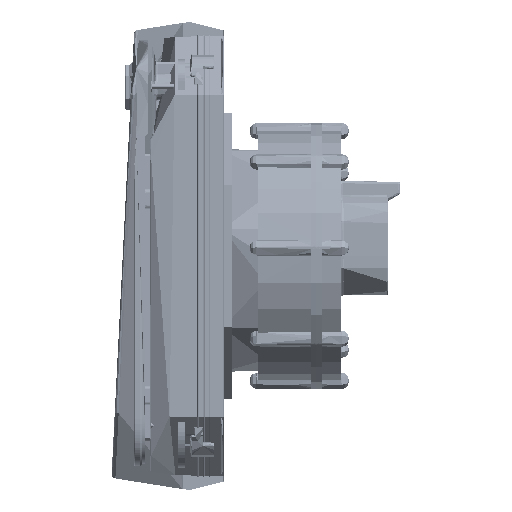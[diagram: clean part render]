
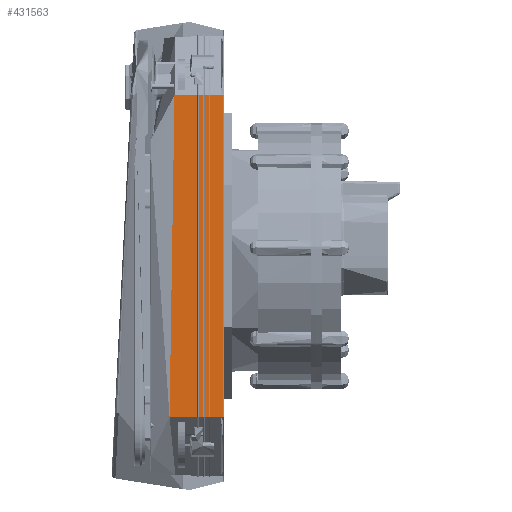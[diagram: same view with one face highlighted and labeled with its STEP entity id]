
A CAD part, left-side view. The second image highlights one B-rep face of the part: STEP entity #431563.
In plain terms, the highlighted planar face has unit normal (1, -0.009, 0).
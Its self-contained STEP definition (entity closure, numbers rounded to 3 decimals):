
#7128 = CARTESIAN_POINT ( 'NONE',  ( -45.708, -8.784, 18.975 ) ) ;
#21812 = CARTESIAN_POINT ( 'NONE',  ( -45.702, -8.04, -28.94 ) ) ;
#63212 = VECTOR ( 'NONE', #393427, 1000. ) ;
#67327 = VECTOR ( 'NONE', #553884, 1000. ) ;
#81772 = CARTESIAN_POINT ( 'NONE',  ( -45.711, -9.059, 37.013 ) ) ;
#85289 = ORIENTED_EDGE ( 'NONE', *, *, #650619, .F. ) ;
#96446 = CARTESIAN_POINT ( 'NONE',  ( -45.706, -8.503, 0.936 ) ) ;
#97636 = CARTESIAN_POINT ( 'NONE',  ( -45.807, -20.062, -29.128 ) ) ;
#107795 = PLANE ( 'NONE',  #699054 ) ;
#135760 = VERTEX_POINT ( 'NONE', #210786 ) ;
#138946 = DIRECTION ( 'NONE',  ( -0.009, -1., 0. ) ) ;
#166340 = CARTESIAN_POINT ( 'NONE',  ( -45.704, -8.362, -8.083 ) ) ;
#178512 = LINE ( 'NONE', #497392, #739581 ) ;
#208797 = CARTESIAN_POINT ( 'NONE',  ( -45.808, -20.26, 43.026 ) ) ;
#209208 = CARTESIAN_POINT ( 'NONE',  ( -45.807, -20.062, -29.128 ) ) ;
#210786 = CARTESIAN_POINT ( 'NONE',  ( -45.786, -17.71, -29.128 ) ) ;
#220555 = CARTESIAN_POINT ( 'NONE',  ( -45.786, -17.71, -29.128 ) ) ;
#231271 = CARTESIAN_POINT ( 'NONE',  ( -45.711, -9.151, 43.026 ) ) ;
#235440 = B_SPLINE_CURVE_WITH_KNOTS ( 'NONE', 3,
 ( #220555, #968368, #285532, #514873 ),
 .UNSPECIFIED., .F., .F.,
 ( 4, 4 ),
 ( 0.003, 0.006 ),
 .UNSPECIFIED. ) ;
#242024 = VERTEX_POINT ( 'NONE', #844734 ) ;
#285532 = CARTESIAN_POINT ( 'NONE',  ( -45.765, -15.309, -29.128 ) ) ;
#288970 = B_SPLINE_CURVE_WITH_KNOTS ( 'NONE', 3,
 ( #231271, #81772, #779382, #7128, #689917, #96446, #166340, #400509, #774512, #704645, #784276, #390716, #460532, #21812, #933759 ),
 .UNSPECIFIED., .F., .F.,
 ( 4, 2, 2, 1, 1, 1, 1, 1, 2, 4 ),
 ( 0.029, 0.047, 0.065, 0.083, 0.092, 0.096, 0.098, 0.1, 0.1, 0.101 ),
 .UNSPECIFIED. ) ;
#324853 = EDGE_CURVE ( 'NONE', #357363, #242024, #178512, .T. ) ;
#334271 = CARTESIAN_POINT ( 'NONE',  ( -45.769, -15.765, 43.026 ) ) ;
#335397 = VERTEX_POINT ( 'NONE', #742912 ) ;
#357363 = VERTEX_POINT ( 'NONE', #780398 ) ;
#390716 = CARTESIAN_POINT ( 'NONE',  ( -45.702, -8.05, -28.377 ) ) ;
#393427 = DIRECTION ( 'NONE',  ( 0., 0., -1. ) ) ;
#400509 = CARTESIAN_POINT ( 'NONE',  ( -45.703, -8.2, -18.606 ) ) ;
#410249 = ORIENTED_EDGE ( 'NONE', *, *, #829970, .T. ) ;
#411809 = DIRECTION ( 'NONE',  ( 1., -0.009, 0. ) ) ;
#421688 = CARTESIAN_POINT ( 'NONE',  ( -45.808, -20.26, 6.949 ) ) ;
#431563 = ADVANCED_FACE ( 'NONE', ( #491583 ), #107795, .T. ) ;
#460532 = CARTESIAN_POINT ( 'NONE',  ( -45.702, -8.044, -28.752 ) ) ;
#466707 = CARTESIAN_POINT ( 'NONE',  ( -45.786, -17.71, -29.128 ) ) ;
#475644 = EDGE_CURVE ( 'NONE', #909458, #335397, #488784, .T. ) ;
#477502 = ORIENTED_EDGE ( 'NONE', *, *, #751958, .T. ) ;
#488784 = LINE ( 'NONE', #334271, #67327 ) ;
#491583 = FACE_OUTER_BOUND ( 'NONE', #799558, .T. ) ;
#497392 = CARTESIAN_POINT ( 'NONE',  ( -45.769, -15.768, -29.128 ) ) ;
#507018 = CARTESIAN_POINT ( 'NONE',  ( -45.755, -14.108, 43.026 ) ) ;
#507503 = EDGE_CURVE ( 'NONE', #938608, #909458, #794077, .T. ) ;
#514873 = CARTESIAN_POINT ( 'NONE',  ( -45.755, -14.108, -29.128 ) ) ;
#517851 = LINE ( 'NONE', #208797, #852226 ) ;
#553884 = DIRECTION ( 'NONE',  ( 0.009, 1., 0. ) ) ;
#599060 = B_SPLINE_CURVE_WITH_KNOTS ( 'NONE', 1,
 ( #466707, #97636 ),
 .UNSPECIFIED., .F., .F.,
 ( 2, 2 ),
 ( 0.713, 0.972 ),
 .UNSPECIFIED. ) ;
#617947 = LINE ( 'NONE', #921789, #63212 ) ;
#622563 = CARTESIAN_POINT ( 'NONE',  ( -45.786, -17.71, 43.026 ) ) ;
#637854 = ORIENTED_EDGE ( 'NONE', *, *, #324853, .T. ) ;
#650619 = EDGE_CURVE ( 'NONE', #135760, #832549, #599060, .T. ) ;
#668890 = CARTESIAN_POINT ( 'NONE',  ( -45.755, -14.108, 43.026 ) ) ;
#689917 = CARTESIAN_POINT ( 'NONE',  ( -45.707, -8.69, 12.962 ) ) ;
#698726 = EDGE_CURVE ( 'NONE', #335397, #242024, #288970, .T. ) ;
#699054 = AXIS2_PLACEMENT_3D ( 'NONE', #421688, #411809, #875294 ) ;
#704645 = CARTESIAN_POINT ( 'NONE',  ( -45.702, -8.079, -26.498 ) ) ;
#722716 = VERTEX_POINT ( 'NONE', #985489 ) ;
#739581 = VECTOR ( 'NONE', #796530, 1000. ) ;
#742912 = CARTESIAN_POINT ( 'NONE',  ( -45.711, -9.151, 43.026 ) ) ;
#746097 = ORIENTED_EDGE ( 'NONE', *, *, #698726, .F. ) ;
#751958 = EDGE_CURVE ( 'NONE', #135760, #357363, #235440, .T. ) ;
#774512 = CARTESIAN_POINT ( 'NONE',  ( -45.702, -8.119, -23.867 ) ) ;
#779226 = ORIENTED_EDGE ( 'NONE', *, *, #883431, .T. ) ;
#779382 = CARTESIAN_POINT ( 'NONE',  ( -45.71, -8.969, 31. ) ) ;
#780398 = CARTESIAN_POINT ( 'NONE',  ( -45.755, -14.108, -29.128 ) ) ;
#784276 = CARTESIAN_POINT ( 'NONE',  ( -45.702, -8.058, -27.813 ) ) ;
#794077 = B_SPLINE_CURVE_WITH_KNOTS ( 'NONE', 1,
 ( #873605, #668890 ),
 .UNSPECIFIED., .F., .F.,
 ( 2, 2 ),
 ( 0.318, 0.714 ),
 .UNSPECIFIED. ) ;
#796530 = DIRECTION ( 'NONE',  ( 0.009, 1., 0. ) ) ;
#799558 = EDGE_LOOP ( 'NONE', ( #410249, #779226, #85289, #477502, #637854, #746097, #904729, #809484 ) ) ;
#809484 = ORIENTED_EDGE ( 'NONE', *, *, #507503, .F. ) ;
#829970 = EDGE_CURVE ( 'NONE', #938608, #722716, #517851, .T. ) ;
#832549 = VERTEX_POINT ( 'NONE', #209208 ) ;
#844734 = CARTESIAN_POINT ( 'NONE',  ( -45.702, -8.04, -29.128 ) ) ;
#852226 = VECTOR ( 'NONE', #138946, 1000. ) ;
#873605 = CARTESIAN_POINT ( 'NONE',  ( -45.786, -17.71, 43.026 ) ) ;
#875294 = DIRECTION ( 'NONE',  ( 0.009, 1., 0. ) ) ;
#883431 = EDGE_CURVE ( 'NONE', #722716, #832549, #617947, .T. ) ;
#904729 = ORIENTED_EDGE ( 'NONE', *, *, #475644, .F. ) ;
#909458 = VERTEX_POINT ( 'NONE', #507018 ) ;
#921789 = CARTESIAN_POINT ( 'NONE',  ( -45.807, -20.062, 6.949 ) ) ;
#933759 = CARTESIAN_POINT ( 'NONE',  ( -45.702, -8.04, -29.128 ) ) ;
#938608 = VERTEX_POINT ( 'NONE', #622563 ) ;
#968368 = CARTESIAN_POINT ( 'NONE',  ( -45.776, -16.509, -29.128 ) ) ;
#985489 = CARTESIAN_POINT ( 'NONE',  ( -45.807, -20.062, 43.026 ) ) ;
